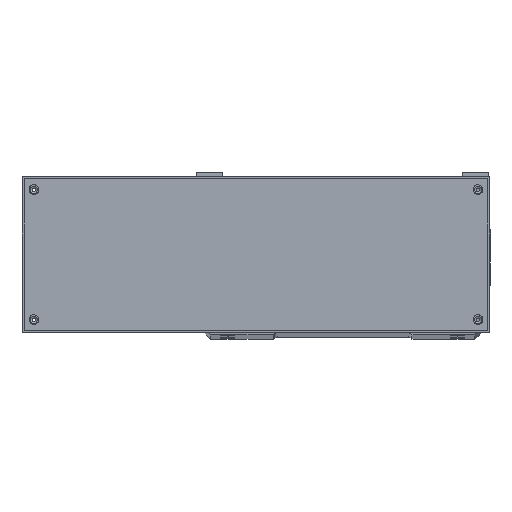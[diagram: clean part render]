
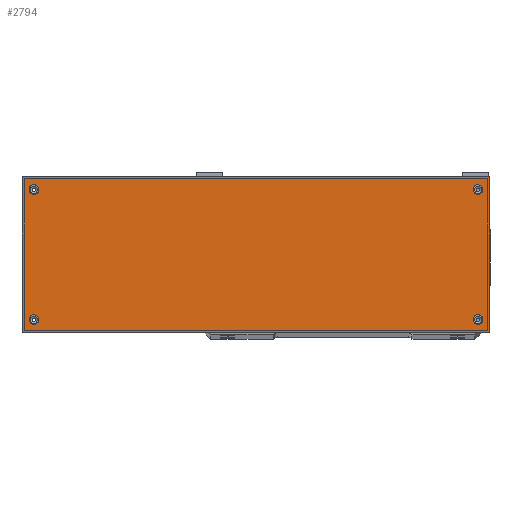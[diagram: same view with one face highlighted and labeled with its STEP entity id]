
A CAD part, top view. The second image highlights one B-rep face of the part: STEP entity #2794.
In plain terms, the highlighted planar face has unit normal (0, 0, 1).
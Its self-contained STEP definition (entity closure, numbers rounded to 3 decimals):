
#970=FACE_BOUND('',#4793,.T.);
#971=FACE_BOUND('',#4794,.T.);
#972=FACE_BOUND('',#4795,.T.);
#973=FACE_BOUND('',#4796,.T.);
#974=FACE_BOUND('',#4797,.T.);
#2088=CIRCLE('',#17055,2.25);
#2090=CIRCLE('',#17058,2.25);
#2092=CIRCLE('',#17061,2.25);
#2094=CIRCLE('',#17064,2.25);
#2794=ADVANCED_FACE('',(#970,#971,#972,#973,#974),#3561,.F.);
#3561=PLANE('',#17070);
#4793=EDGE_LOOP('',(#7427));
#4794=EDGE_LOOP('',(#7428));
#4795=EDGE_LOOP('',(#7429));
#4796=EDGE_LOOP('',(#7430));
#4797=EDGE_LOOP('',(#7431,#7432,#7433,#7434));
#7427=ORIENTED_EDGE('',*,*,#12996,.F.);
#7428=ORIENTED_EDGE('',*,*,#12998,.F.);
#7429=ORIENTED_EDGE('',*,*,#13000,.F.);
#7430=ORIENTED_EDGE('',*,*,#13002,.F.);
#7431=ORIENTED_EDGE('',*,*,#12753,.F.);
#7432=ORIENTED_EDGE('',*,*,#13012,.F.);
#7433=ORIENTED_EDGE('',*,*,#13003,.F.);
#7434=ORIENTED_EDGE('',*,*,#12780,.F.);
#10938=VERTEX_POINT('',#25647);
#10939=VERTEX_POINT('',#25649);
#10954=VERTEX_POINT('',#25694);
#11100=VERTEX_POINT('',#26593);
#11102=VERTEX_POINT('',#26598);
#11104=VERTEX_POINT('',#26603);
#11106=VERTEX_POINT('',#26608);
#11107=VERTEX_POINT('',#26611);
#12753=EDGE_CURVE('',#10938,#10939,#14559,.T.);
#12780=EDGE_CURVE('',#10939,#10954,#14584,.T.);
#12996=EDGE_CURVE('',#11100,#11100,#2088,.T.);
#12998=EDGE_CURVE('',#11102,#11102,#2090,.T.);
#13000=EDGE_CURVE('',#11104,#11104,#2092,.T.);
#13002=EDGE_CURVE('',#11106,#11106,#2094,.T.);
#13003=EDGE_CURVE('',#10954,#11107,#14693,.T.);
#13012=EDGE_CURVE('',#11107,#10938,#14700,.T.);
#14559=LINE('',#25648,#15699);
#14584=LINE('',#25693,#15724);
#14693=LINE('',#26610,#15833);
#14700=LINE('',#26627,#15840);
#15699=VECTOR('',#19630,1.);
#15724=VECTOR('',#19665,1.);
#15833=VECTOR('',#20116,1.);
#15840=VECTOR('',#20129,1.);
#17055=AXIS2_PLACEMENT_3D('',#26592,#20094,#20095);
#17058=AXIS2_PLACEMENT_3D('',#26597,#20100,#20101);
#17061=AXIS2_PLACEMENT_3D('',#26602,#20106,#20107);
#17064=AXIS2_PLACEMENT_3D('',#26607,#20112,#20113);
#17070=AXIS2_PLACEMENT_3D('',#26634,#20135,#20136);
#19630=DIRECTION('',(0.,-1.,0.));
#19665=DIRECTION('',(-1.,0.,0.));
#20094=DIRECTION('',(0.,0.,1.));
#20095=DIRECTION('',(-1.,0.,0.));
#20100=DIRECTION('',(0.,0.,1.));
#20101=DIRECTION('',(1.,0.,0.));
#20106=DIRECTION('',(0.,0.,1.));
#20107=DIRECTION('',(-1.,0.,0.));
#20112=DIRECTION('',(0.,0.,1.));
#20113=DIRECTION('',(1.,0.,0.));
#20116=DIRECTION('',(0.,1.,0.));
#20129=DIRECTION('',(1.,0.,0.));
#20135=DIRECTION('',(0.,0.,-1.));
#20136=DIRECTION('',(1.,0.,0.));
#25647=CARTESIAN_POINT('',(68.,72.,193.));
#25648=CARTESIAN_POINT('',(68.,72.,193.));
#25649=CARTESIAN_POINT('',(68.,0.,193.));
#25693=CARTESIAN_POINT('',(68.,0.,193.));
#25694=CARTESIAN_POINT('',(-148.,0.,193.));
#26592=CARTESIAN_POINT('',(-142.5,6.,193.));
#26593=CARTESIAN_POINT('',(-144.75,6.,193.));
#26597=CARTESIAN_POINT('',(62.5,6.,193.));
#26598=CARTESIAN_POINT('',(64.75,6.,193.));
#26602=CARTESIAN_POINT('',(62.5,66.,193.));
#26603=CARTESIAN_POINT('',(60.25,66.,193.));
#26607=CARTESIAN_POINT('',(-142.5,66.,193.));
#26608=CARTESIAN_POINT('',(-140.25,66.,193.));
#26610=CARTESIAN_POINT('',(-148.,72.,193.));
#26611=CARTESIAN_POINT('',(-148.,72.,193.));
#26627=CARTESIAN_POINT('',(68.,72.,193.));
#26634=CARTESIAN_POINT('',(-40.,36.,193.));
